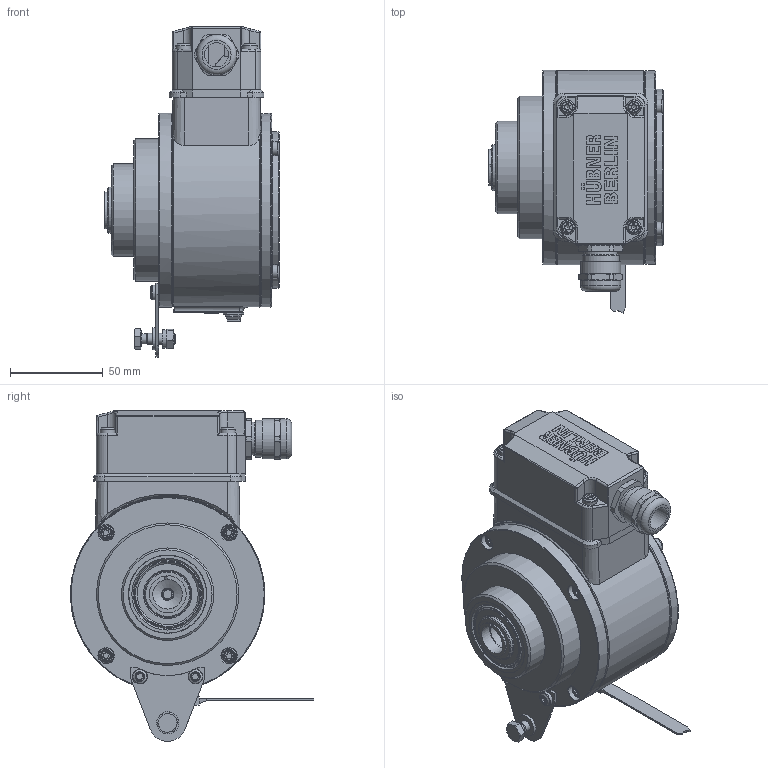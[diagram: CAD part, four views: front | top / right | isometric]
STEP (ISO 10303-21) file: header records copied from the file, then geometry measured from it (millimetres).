
FILE_DESCRIPTION(/* description */ (''),/* implementation_level */ '2;1');
FILE_NAME(/* name */ 'M:\__3D-Daten\Loeschen\Step\Baumer_HOG100-LR-16H7-KLK_CAD.stp',/* time_stamp */ '2018-07-30T13:10:37+02:00',/* author */ ('mbir'),/* organization */ (''),/* preprocessor_version */ 'ST-DEVELOPER v16.1',/* originating_system */ 'Autodesk Inventor 2016',/* authorisation */ '');
FILE_SCHEMA (('AUTOMOTIVE_DESIGN { 1 0 10303 214 3 1 1 }'));
Products named in the file (1): Baumer_HOG100-LR-16H7-KLK_CAD
Bounding box: 94.03 x 131.33 x 178.7 mm (x, y, z)
Volume: 702090.1 mm3; surface area: 119683.4 mm2
Topology: 5 solids, 37 shells, 2275 faces, 5619 edges, 3580 vertices
Faces by surface type: plane 1055, cylinder 417, bspline 404, cone 229, torus 144, sphere 26
Full cylindrical faces by diameter (mm): 0.457 x1, 1.3 x7, 2.7 x4, 3.2 x4, 3.242 x3, 3.5 x8, 3.6 x4, 3.621 x1, 3.8 x11, 3.83 x7, 4 x9, 4.3 x1, 4.5 x2, 5 x4, 5.459 x1, 6 x3, 6.1 x1, 6.4 x1, 6.5 x1, 6.6 x1, 6.647 x1, 7 x1, 7.2 x1, 7.4 x4, 8 x10, 8.5 x4, 8.7 x1, 9 x1, 10 x2, 12 x1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
Entity records: 70461 total; most frequent: CARTESIAN_POINT 19640, ORIENTED_EDGE 10482, DIRECTION 9924, EDGE_CURVE 5241, AXIS2_PLACEMENT_3D 3564, VERTEX_POINT 3491, LINE 2796, VECTOR 2796
